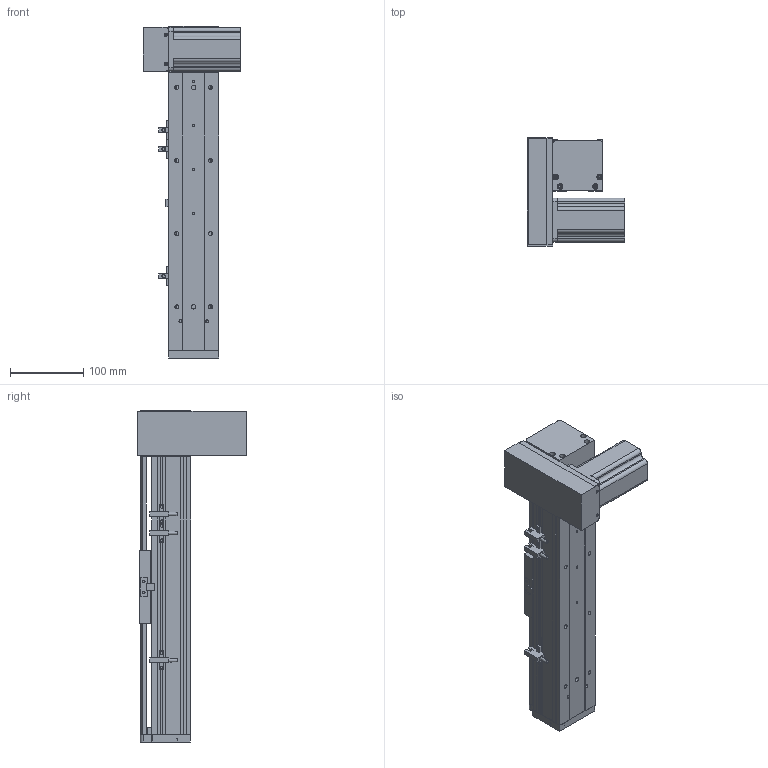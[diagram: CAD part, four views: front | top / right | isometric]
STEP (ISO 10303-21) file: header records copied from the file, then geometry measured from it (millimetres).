
FILE_DESCRIPTION (( 'STEP AP203' ), '1' );
FILE_NAME ('ML68-S200-DR.STEP', '2016-08-05T00:44:42', ( '' ), ( '' ), 'SwSTEP 2.0', 'SolidWorks 2014', '' );
FILE_SCHEMA (( 'CONFIG_CONTROL_DESIGN' ));
Length unit declared in the file: millimetre
Products named in the file (12): 換覜ん; ML68傷啣; 三协电机MH201N2_預設; ML68雄赽釱; QS68酘衵殏萇儂啣; ML68滅鳥啣盓傅輸; 60換覜結え; QS68左右折电机板罩子; ML68-S200-DR; ML68奻裔^ML68-S200-DR; 葩璃 ML68菁釱^ML68-S200-DR; ML68-BL傷啣
Assembly tree (13 placements, depth 2):
  ML68-S200-DR
    葩璃 ML68菁釱^ML68-S200-DR
    ML68奻裔^ML68-S200-DR
    ML68傷啣
    ML68-BL傷啣
    60換覜結え
    換覜ん  x3
    三协电机MH201N2_預設
    ML68雄赽釱
    QS68酘衵殏萇儂啣
    QS68左右折电机板罩子
    ML68滅鳥啣盓傅輸
Bounding box: 133.5 x 148 x 454 mm (x, y, z)
Volume: 1205325.6 mm3; surface area: 399361.6 mm2
Topology: 13 solids, 13 shells, 851 faces, 2326 edges, 1473 vertices
Faces by surface type: cylinder 382, plane 373, cone 96
Entity records: 26666 total; most frequent: CARTESIAN_POINT 4902, DIRECTION 4396, ORIENTED_EDGE 4152, EDGE_CURVE 2076, AXIS2_PLACEMENT_3D 1579, VERTEX_POINT 1361, VECTOR 1238, LINE 1238
